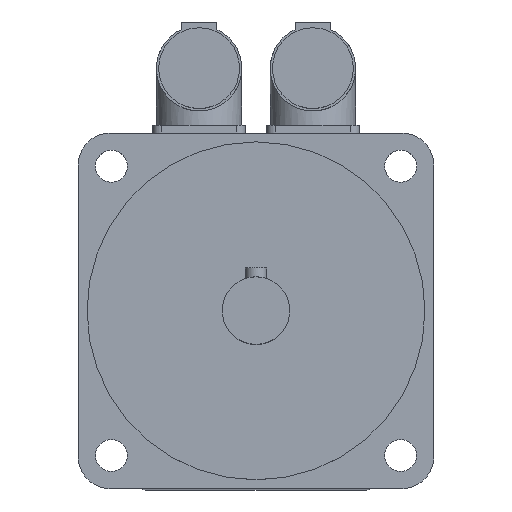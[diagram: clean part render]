
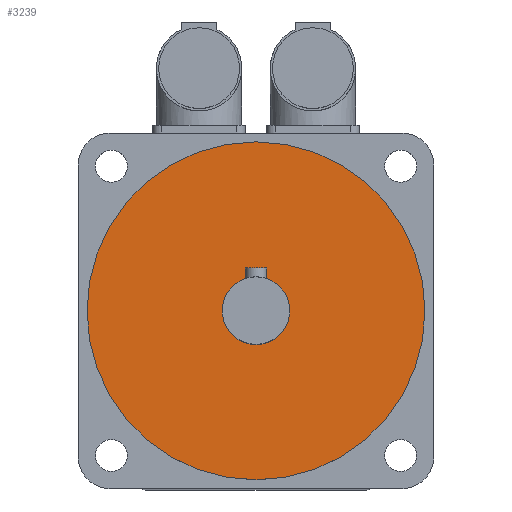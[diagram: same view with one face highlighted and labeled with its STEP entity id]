
A CAD part, top view. The second image highlights one B-rep face of the part: STEP entity #3239.
In plain terms, the highlighted planar face has unit normal (0, 0, 1).
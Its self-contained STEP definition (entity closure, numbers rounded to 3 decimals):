
#36=FACE_BOUND('',#567,.T.);
#71=PLANE('',#3478);
#182=CIRCLE('',#3473,9.5);
#183=CIRCLE('',#3476,47.5);
#368=FACE_OUTER_BOUND('',#566,.T.);
#566=EDGE_LOOP('',(#2309));
#567=EDGE_LOOP('',(#2310));
#1393=VERTEX_POINT('',#5230);
#1394=VERTEX_POINT('',#5234);
#1743=EDGE_CURVE('',#1393,#1393,#182,.T.);
#1744=EDGE_CURVE('',#1394,#1394,#183,.T.);
#2309=ORIENTED_EDGE('',*,*,#1744,.T.);
#2310=ORIENTED_EDGE('',*,*,#1743,.T.);
#3239=ADVANCED_FACE('',(#368,#36),#71,.F.);
#3473=AXIS2_PLACEMENT_3D('',#5231,#3962,#3963);
#3476=AXIS2_PLACEMENT_3D('',#5235,#3968,#3969);
#3478=AXIS2_PLACEMENT_3D('',#5238,#3972,#3973);
#3962=DIRECTION('center_axis',(0.,0.,-1.));
#3963=DIRECTION('ref_axis',(-1.,0.,0.));
#3968=DIRECTION('center_axis',(0.,0.,
1.));
#3969=DIRECTION('ref_axis',(-1.,0.,0.));
#3972=DIRECTION('center_axis',(0.,0.,-1.));
#3973=DIRECTION('ref_axis',(-1.,0.,0.));
#5230=CARTESIAN_POINT('',(9.5,0.,194.));
#5231=CARTESIAN_POINT('Origin',(0.,0.,
194.));
#5234=CARTESIAN_POINT('',(47.5,0.,194.));
#5235=CARTESIAN_POINT('Origin',(0.,0.,
194.));
#5238=CARTESIAN_POINT('Origin',(0.,0.,
194.));
